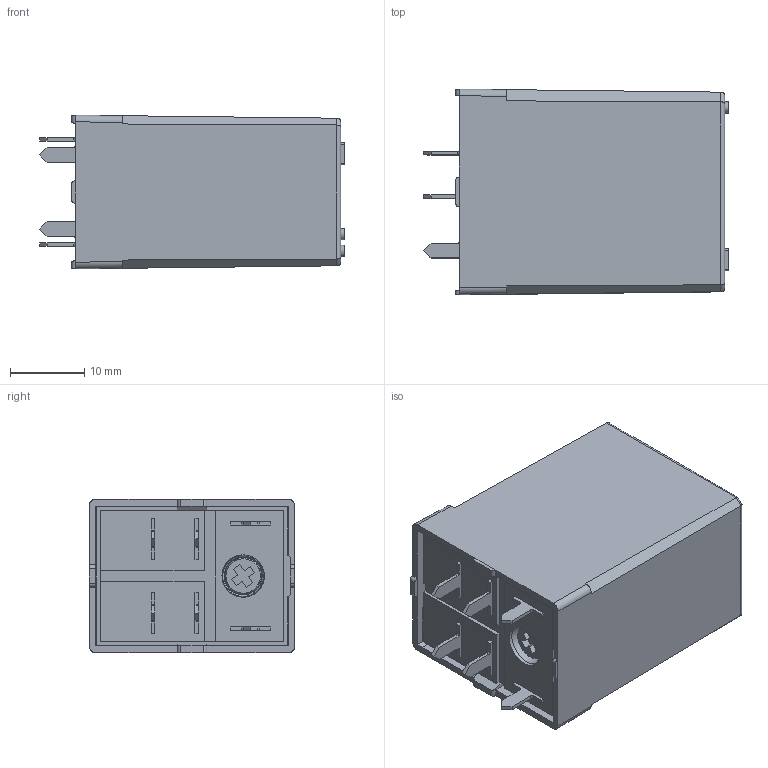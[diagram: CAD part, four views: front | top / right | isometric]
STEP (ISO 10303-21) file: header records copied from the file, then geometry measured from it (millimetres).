
FILE_DESCRIPTION(('STEP AP214'),'2;1');
FILE_NAME('56_42-0300_senza pulsante_NO.stp','2011-05-18T08:46:15',(''),(''),'2007.1.106','THINKDESIGN','');
FILE_SCHEMA(('AUTOMOTIVE_DESIGN'));
Length unit declared in the file: millimetre
Products named in the file (1): None
Bounding box: 41.1 x 27.73 x 20.73 mm (x, y, z)
Surface area: 6722.5 mm2 (no closed solid volume)
Topology: 0 solids, 0 shells, 194 faces, 1059 edges, 1044 vertices
Faces by surface type: plane 131, cylinder 39, bspline 24
Full cylindrical faces by diameter (mm): 1.5 x2, 5 x1
Entity records: 11356 total; most frequent: CARTESIAN_POINT 3781, DIRECTION 1266, COMPOSITE_CURVE_SEGMENT 1059, TRIMMED_CURVE 866, VECTOR 818, LINE 818, AXIS2_PLACEMENT_3D 224, OUTER_BOUNDARY_CURVE 194
